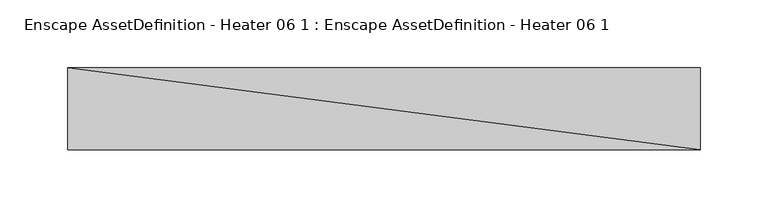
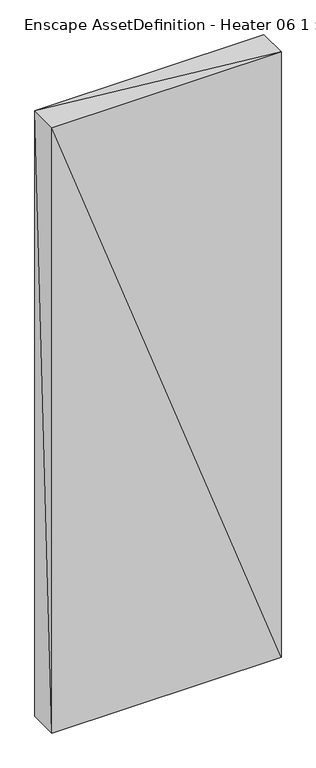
"""IFC4 building model written with IfcOpenShell, lengths in millimetres: geographic element geometry, Enscape AssetDefinition - Heater 06 1 : Enscape AssetDefinition - Heater 06 1."""

from ifc_helpers import new_model, si_unit, origin, place, context, project, spatial, faceted_brep, source, transform, mapped, element, save


def enscape_assetdefinition_heater_06_1_enscape_assetdefinition_1c5556bd(model_context):
    return source(origin(), model_context, "Body", "Brep", [
        faceted_brep([(-246.4931905, 0.0, 1315.6392574), (-246.4931905, -59.9999949, 1315.6392574), (218.3771729, -59.9999949, 1315.6392574), (218.3771729, 0.0, 1315.6392574), (-246.4931905, -59.9999949, 16.7115591), (-246.4931905, 0.0, 16.7115591), (218.3771729, -59.9999949, 16.7115591), (218.3771729, 0.0, 16.7115591)], [[[0, 1, 2]], [[0, 2, 3]], [[4, 1, 0]], [[4, 0, 5]], [[6, 2, 1]], [[6, 1, 4]], [[7, 3, 2]], [[7, 2, 6]], [[5, 0, 3]], [[5, 3, 7]], [[6, 4, 5]], [[7, 6, 5]]]),
    ])


if __name__ == "__main__":
    model = new_model("IFC4")
    model_context = context("Model", 3, world=origin())
    ifc_project = project(units=[si_unit("LENGTHUNIT", "METRE", prefix="MILLI")], contexts=[model_context])
    site = spatial("IfcSite", under=ifc_project)
    building = spatial("IfcBuilding", under=site)
    placement = place(None, origin())
    enscape_assetdefinition_heater_06_1_enscape_assetdefinition_shape = enscape_assetdefinition_heater_06_1_enscape_assetdefinition_1c5556bd(model_context)
    element("IfcGeographicElement", 1, ObjectType="Enscape AssetDefinition - Heater 06 1 : Enscape AssetDefinition - Heater 06 1", at=placement, inside=building, context=model_context, shape_type="MappedRepresentation", body=[
        mapped(enscape_assetdefinition_heater_06_1_enscape_assetdefinition_shape, transform((0.0, 0.0, 0.0), x_axis=(1.0, 0.0, 0.0), y_axis=(0.0, 1.0, 0.0), z_axis=(0.0, 0.0, 1.0))),
    ])
    save(model, "model.ifc")
